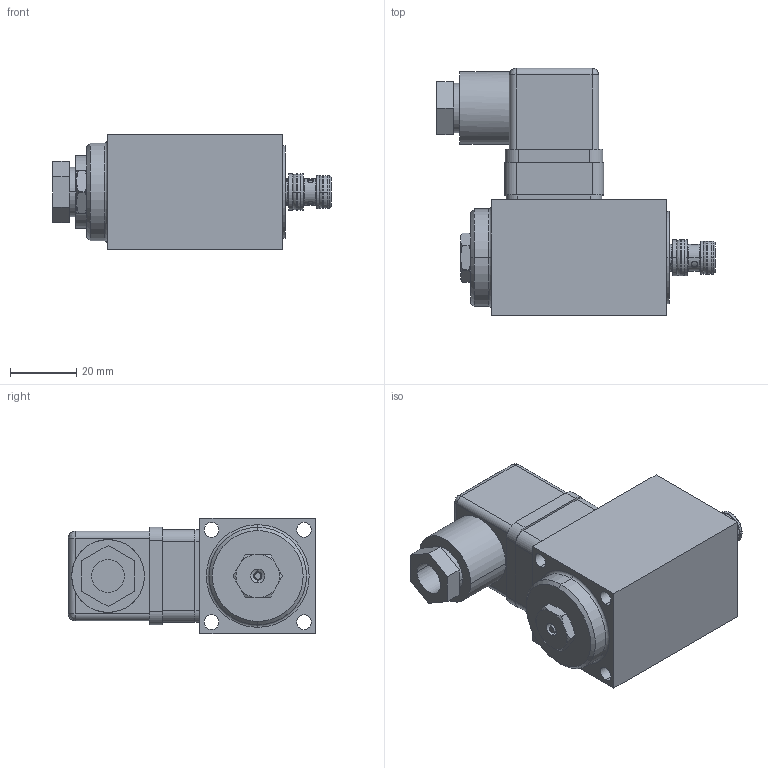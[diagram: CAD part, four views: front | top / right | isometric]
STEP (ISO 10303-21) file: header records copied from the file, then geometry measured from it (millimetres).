
FILE_DESCRIPTION (( 'STEP AP214' ), '1' );
FILE_NAME ('0214802.STEP', '2017-03-22T13:23:00', ( '' ), ( '' ), 'SwSTEP 2.0', 'SolidWorks 2016', '' );
FILE_SCHEMA (( 'AUTOMOTIVE_DESIGN' ));
Length unit declared in the file: millimetre
Products named in the file (1): 0214802
Bounding box: 84.3 x 74.8 x 35 mm (x, y, z)
Volume: 98738.6 mm3; surface area: 28823.1 mm2
Topology: 8 solids, 15 shells, 545 faces, 1380 edges, 898 vertices
Faces by surface type: plane 249, cylinder 194, cone 46, bspline 30, torus 26
Entity records: 23438 total; most frequent: CARTESIAN_POINT 4179, DIRECTION 2793, ORIENTED_EDGE 2748, EDGE_CURVE 1374, AXIS2_PLACEMENT_3D 1026, VERTEX_POINT 898, LINE 741, VECTOR 741
